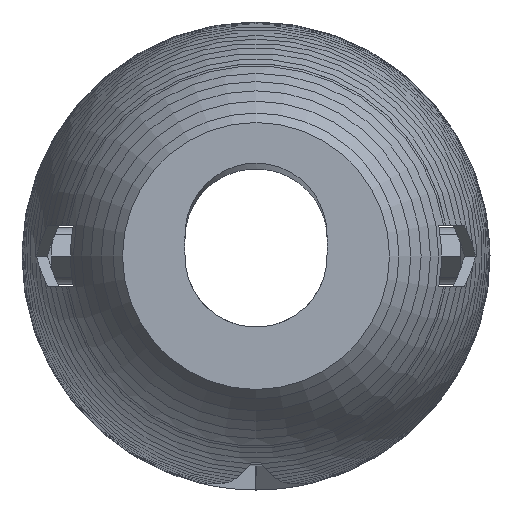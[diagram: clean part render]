
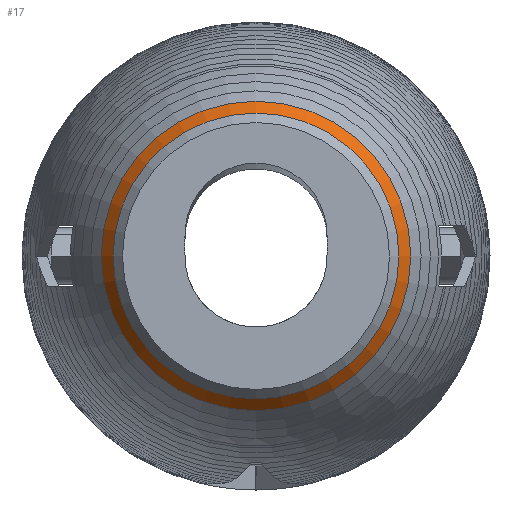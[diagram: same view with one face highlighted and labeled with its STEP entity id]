
A CAD part, left-side view. The second image highlights one B-rep face of the part: STEP entity #17.
In plain terms, the highlighted conical face has half-angle 35.799 degrees and reference radius 15.274 mm.
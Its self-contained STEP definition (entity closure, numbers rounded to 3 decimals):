
#17 = ADVANCED_FACE('',(#18),#32,.T.);
#18 = FACE_BOUND('',#19,.T.);
#19 = EDGE_LOOP('',(#20,#50,#76,#77));
#20 = ORIENTED_EDGE('',*,*,#21,.T.);
#21 = EDGE_CURVE('',#22,#24,#26,.T.);
#22 = VERTEX_POINT('',#23);
#23 = CARTESIAN_POINT('',(10.5,16.536,0.));
#24 = VERTEX_POINT('',#25);
#25 = CARTESIAN_POINT('',(8.75,15.274,0.));
#26 = SEAM_CURVE('',#27,(#31,#43),.PCURVE_S1.);
#27 = LINE('',#28,#29);
#28 = CARTESIAN_POINT('',(10.5,16.536,0.));
#29 = VECTOR('',#30,1.);
#30 = DIRECTION('',(-0.811,-0.585,0.));
#31 = PCURVE('',#32,#37);
#32 = CONICAL_SURFACE('',#33,15.274,0.625);
#33 = AXIS2_PLACEMENT_3D('',#34,#35,#36);
#34 = CARTESIAN_POINT('',(8.75,0.,0.));
#35 = DIRECTION('',(1.,0.,0.));
#36 = DIRECTION('',(-0.,1.,0.));
#37 = DEFINITIONAL_REPRESENTATION('',(#38),#42);
#38 = LINE('',#39,#40);
#39 = CARTESIAN_POINT('',(0.,1.75));
#40 = VECTOR('',#41,1.);
#41 = DIRECTION('',(-0.,-1.));
#42 = ( GEOMETRIC_REPRESENTATION_CONTEXT(2) 
PARAMETRIC_REPRESENTATION_CONTEXT() REPRESENTATION_CONTEXT('2D SPACE',''
  ) );
#43 = PCURVE('',#32,#44);
#44 = DEFINITIONAL_REPRESENTATION('',(#45),#49);
#45 = LINE('',#46,#47);
#46 = CARTESIAN_POINT('',(6.283,1.75));
#47 = VECTOR('',#48,1.);
#48 = DIRECTION('',(-0.,-1.));
#49 = ( GEOMETRIC_REPRESENTATION_CONTEXT(2) 
PARAMETRIC_REPRESENTATION_CONTEXT() REPRESENTATION_CONTEXT('2D SPACE',''
  ) );
#50 = ORIENTED_EDGE('',*,*,#51,.T.);
#51 = EDGE_CURVE('',#24,#24,#52,.T.);
#52 = SURFACE_CURVE('',#53,(#58,#65),.PCURVE_S1.);
#53 = CIRCLE('',#54,15.274);
#54 = AXIS2_PLACEMENT_3D('',#55,#56,#57);
#55 = CARTESIAN_POINT('',(8.75,0.,0.));
#56 = DIRECTION('',(1.,0.,0.));
#57 = DIRECTION('',(-0.,1.,0.));
#58 = PCURVE('',#32,#59);
#59 = DEFINITIONAL_REPRESENTATION('',(#60),#64);
#60 = LINE('',#61,#62);
#61 = CARTESIAN_POINT('',(0.,0.));
#62 = VECTOR('',#63,1.);
#63 = DIRECTION('',(1.,0.));
#64 = ( GEOMETRIC_REPRESENTATION_CONTEXT(2) 
PARAMETRIC_REPRESENTATION_CONTEXT() REPRESENTATION_CONTEXT('2D SPACE',''
  ) );
#65 = PCURVE('',#66,#71);
#66 = CONICAL_SURFACE('',#67,14.258,0.683);
#67 = AXIS2_PLACEMENT_3D('',#68,#69,#70);
#68 = CARTESIAN_POINT('',(7.5,0.,0.));
#69 = DIRECTION('',(1.,0.,0.));
#70 = DIRECTION('',(-0.,1.,0.));
#71 = DEFINITIONAL_REPRESENTATION('',(#72),#75);
#72 = B_SPLINE_CURVE_WITH_KNOTS('',1,(#73,#74),.UNSPECIFIED.,.F.,.F.,(2,
    2),(0.,6.283),.PIECEWISE_BEZIER_KNOTS.);
#73 = CARTESIAN_POINT('',(0.,1.25));
#74 = CARTESIAN_POINT('',(6.283,1.25));
#75 = ( GEOMETRIC_REPRESENTATION_CONTEXT(2) 
PARAMETRIC_REPRESENTATION_CONTEXT() REPRESENTATION_CONTEXT('2D SPACE',''
  ) );
#76 = ORIENTED_EDGE('',*,*,#21,.F.);
#77 = ORIENTED_EDGE('',*,*,#78,.T.);
#78 = EDGE_CURVE('',#22,#22,#79,.T.);
#79 = SURFACE_CURVE('',#80,(#85,#92),.PCURVE_S1.);
#80 = CIRCLE('',#81,16.536);
#81 = AXIS2_PLACEMENT_3D('',#82,#83,#84);
#82 = CARTESIAN_POINT('',(10.5,0.,0.));
#83 = DIRECTION('',(-1.,0.,0.));
#84 = DIRECTION('',(0.,1.,0.));
#85 = PCURVE('',#32,#86);
#86 = DEFINITIONAL_REPRESENTATION('',(#87),#91);
#87 = LINE('',#88,#89);
#88 = CARTESIAN_POINT('',(6.283,1.75));
#89 = VECTOR('',#90,1.);
#90 = DIRECTION('',(-1.,-0.));
#91 = ( GEOMETRIC_REPRESENTATION_CONTEXT(2) 
PARAMETRIC_REPRESENTATION_CONTEXT() REPRESENTATION_CONTEXT('2D SPACE',''
  ) );
#92 = PCURVE('',#93,#98);
#93 = CONICAL_SURFACE('',#94,16.536,0.566);
#94 = AXIS2_PLACEMENT_3D('',#95,#96,#97);
#95 = CARTESIAN_POINT('',(10.5,0.,0.));
#96 = DIRECTION('',(1.,0.,0.));
#97 = DIRECTION('',(-0.,1.,0.));
#98 = DEFINITIONAL_REPRESENTATION('',(#99),#103);
#99 = LINE('',#100,#101);
#100 = CARTESIAN_POINT('',(6.283,0.));
#101 = VECTOR('',#102,1.);
#102 = DIRECTION('',(-1.,-0.));
#103 = ( GEOMETRIC_REPRESENTATION_CONTEXT(2) 
PARAMETRIC_REPRESENTATION_CONTEXT() REPRESENTATION_CONTEXT('2D SPACE',''
  ) );
